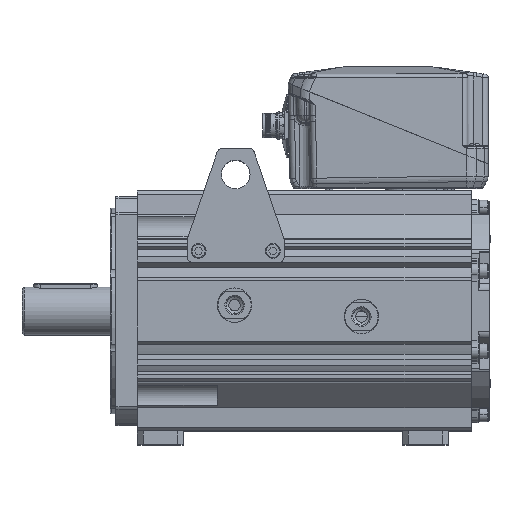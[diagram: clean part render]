
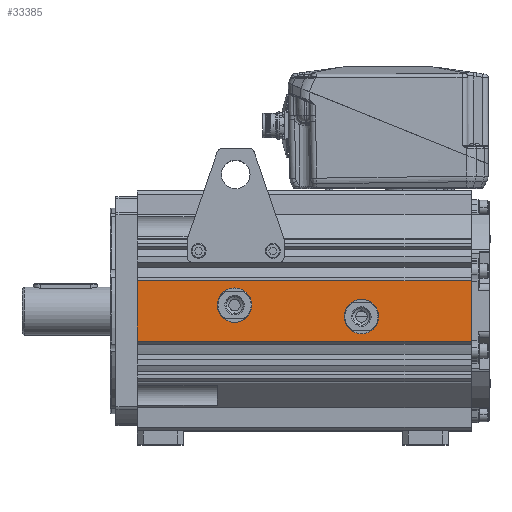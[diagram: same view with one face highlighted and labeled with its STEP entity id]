
A CAD part, top view. The second image highlights one B-rep face of the part: STEP entity #33385.
In plain terms, the highlighted planar face has unit normal (0, 0, 1).
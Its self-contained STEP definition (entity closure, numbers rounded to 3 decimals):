
#30800=DIRECTION('',(1.,0.,0.));
#30801=VECTOR('',#30800,292.);
#30802=CARTESIAN_POINT('',(101.,-26.5,105.));
#30803=LINE('',#30802,#30801);
#30804=DIRECTION('',(0.,1.,0.));
#30805=VECTOR('',#30804,53.);
#30806=CARTESIAN_POINT('',(101.,-26.5,105.));
#30807=LINE('',#30806,#30805);
#30808=DIRECTION('',(1.,0.,0.));
#30809=VECTOR('',#30808,292.);
#30810=CARTESIAN_POINT('',(101.,26.5,105.));
#30811=LINE('',#30810,#30809);
#30812=DIRECTION('',(0.,-1.,0.));
#30813=VECTOR('',#30812,53.);
#30814=CARTESIAN_POINT('',(393.,26.5,105.));
#30815=LINE('',#30814,#30813);
#30848=CARTESIAN_POINT('',(186.,5.,105.));
#30849=DIRECTION('',(0.,0.,-1.));
#30850=DIRECTION('',(1.,0.,0.));
#30851=AXIS2_PLACEMENT_3D('',#30848,#30849,#30850);
#30853=CARTESIAN_POINT('',(186.,5.,105.));
#30854=DIRECTION('',(0.,0.,-1.));
#30855=DIRECTION('',(-1.,0.,0.));
#30856=AXIS2_PLACEMENT_3D('',#30853,#30854,#30855);
#30858=CARTESIAN_POINT('',(297.,-5.,105.));
#30859=DIRECTION('',(0.,0.,-1.));
#30860=DIRECTION('',(1.,0.,0.));
#30861=AXIS2_PLACEMENT_3D('',#30858,#30859,#30860);
#30863=CARTESIAN_POINT('',(297.,-5.,105.));
#30864=DIRECTION('',(0.,0.,-1.));
#30865=DIRECTION('',(-1.,0.,0.));
#30866=AXIS2_PLACEMENT_3D('',#30863,#30864,#30865);
#31950=CARTESIAN_POINT('',(101.,26.5,105.));
#31951=VERTEX_POINT('',#31950);
#31958=CARTESIAN_POINT('',(393.,26.5,105.));
#31959=VERTEX_POINT('',#31958);
#32000=CARTESIAN_POINT('',(101.,-26.5,105.));
#32001=VERTEX_POINT('',#32000);
#32008=CARTESIAN_POINT('',(393.,-26.5,105.));
#32009=VERTEX_POINT('',#32008);
#32218=CARTESIAN_POINT('',(193.5,5.,105.));
#32219=CARTESIAN_POINT('',(178.5,5.,105.));
#32220=VERTEX_POINT('',#32218);
#32221=VERTEX_POINT('',#32219);
#32226=CARTESIAN_POINT('',(304.5,-5.,105.));
#32228=VERTEX_POINT('',#32226);
#32230=CARTESIAN_POINT('',(289.5,-5.,105.));
#32232=VERTEX_POINT('',#32230);
#33360=CARTESIAN_POINT('',(101.,62.,105.));
#33361=DIRECTION('',(0.,0.,1.));
#33362=DIRECTION('',(0.,-1.,0.));
#33363=AXIS2_PLACEMENT_3D('',#33360,#33361,#33362);
#33364=PLANE('',#33363);
#33366=ORIENTED_EDGE('',*,*,#33365,.F.);
#33367=ORIENTED_EDGE('',*,*,#32419,.T.);
#33369=ORIENTED_EDGE('',*,*,#33368,.T.);
#33370=ORIENTED_EDGE('',*,*,#32791,.T.);
#33371=EDGE_LOOP('',(#33366,#33367,#33369,#33370));
#33372=FACE_OUTER_BOUND('',#33371,.F.);
#33374=ORIENTED_EDGE('',*,*,#33373,.F.);
#33376=ORIENTED_EDGE('',*,*,#33375,.F.);
#33377=EDGE_LOOP('',(#33374,#33376));
#33378=FACE_BOUND('',#33377,.F.);
#33380=ORIENTED_EDGE('',*,*,#33379,.F.);
#33382=ORIENTED_EDGE('',*,*,#33381,.F.);
#33383=EDGE_LOOP('',(#33380,#33382));
#33384=FACE_BOUND('',#33383,.F.);
#33385=ADVANCED_FACE('',(#33372,#33378,#33384),#33364,.T.);
#30852=CIRCLE('',#30851,7.5);
#30857=CIRCLE('',#30856,7.5);
#30862=CIRCLE('',#30861,7.5);
#30867=CIRCLE('',#30866,7.5);
#32419=EDGE_CURVE('',#32001,#31951,#30807,.T.);
#32791=EDGE_CURVE('',#31959,#32009,#30815,.T.);
#33365=EDGE_CURVE('',#32001,#32009,#30803,.T.);
#33368=EDGE_CURVE('',#31951,#31959,#30811,.T.);
#33373=EDGE_CURVE('',#32220,#32221,#30852,.T.);
#33375=EDGE_CURVE('',#32221,#32220,#30857,.T.);
#33379=EDGE_CURVE('',#32228,#32232,#30862,.T.);
#33381=EDGE_CURVE('',#32232,#32228,#30867,.T.);
